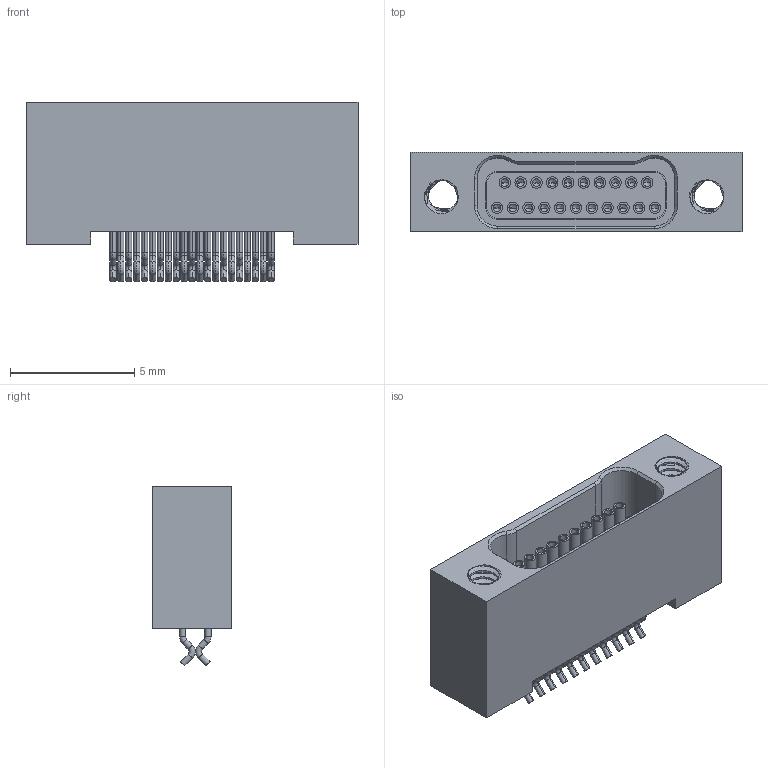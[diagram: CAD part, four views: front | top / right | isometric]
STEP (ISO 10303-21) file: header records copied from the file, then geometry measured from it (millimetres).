
FILE_DESCRIPTION (( 'STEP AP214' ), '1' );
FILE_NAME ('A29300-021 REV J.STEP', '2015-11-05T12:25:46', ( '' ), ( '' ), 'SwSTEP 2.0', 'SolidWorks 2015', '' );
FILE_SCHEMA (( 'AUTOMOTIVE_DESIGN' ));
Length unit declared in the file: inch
Products named in the file (1): A29300-021
Bounding box: 13.34 x 3.19 x 7.23 mm (x, y, z)
Volume: 159.7 mm3; surface area: 602.6 mm2
Topology: 1 solids, 4 shells, 698 faces, 1677 edges, 1023 vertices
Faces by surface type: cylinder 306, plane 198, torus 84, cone 56, bspline 54
Entity records: 28969 total; most frequent: CARTESIAN_POINT 12367, ORIENTED_EDGE 3270, DIRECTION 3221, EDGE_CURVE 1635, AXIS2_PLACEMENT_3D 1215, VERTEX_POINT 1023, VECTOR 791, LINE 791
